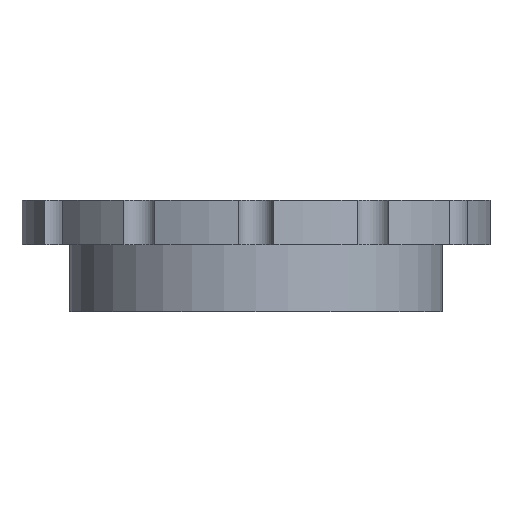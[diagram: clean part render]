
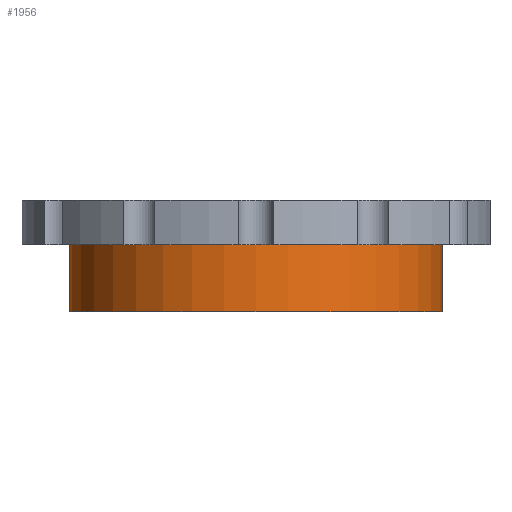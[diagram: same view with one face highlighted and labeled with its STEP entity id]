
A CAD part, front view. The second image highlights one B-rep face of the part: STEP entity #1956.
In plain terms, the highlighted cylindrical face has radius 16.7 mm (diameter 33.4 mm), a full revolution.
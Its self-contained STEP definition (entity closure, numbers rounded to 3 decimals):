
#100 = PLANE('',#101);
#101 = AXIS2_PLACEMENT_3D('',#102,#103,#104);
#102 = CARTESIAN_POINT('',(297.5,0.,108.));
#103 = DIRECTION('',(0.,0.,1.));
#104 = DIRECTION('',(1.,0.,0.));
#1396 = EDGE_CURVE('',#1397,#1397,#1399,.T.);
#1397 = VERTEX_POINT('',#1398);
#1398 = CARTESIAN_POINT('',(314.2,0.,108.));
#1399 = SURFACE_CURVE('',#1400,(#1405,#1412),.PCURVE_S1.);
#1400 = CIRCLE('',#1401,16.7);
#1401 = AXIS2_PLACEMENT_3D('',#1402,#1403,#1404);
#1402 = CARTESIAN_POINT('',(297.5,0.,108.));
#1403 = DIRECTION('',(0.,0.,1.));
#1404 = DIRECTION('',(1.,0.,0.));
#1405 = PCURVE('',#100,#1406);
#1406 = DEFINITIONAL_REPRESENTATION('',(#1407),#1411);
#1407 = CIRCLE('',#1408,16.7);
#1408 = AXIS2_PLACEMENT_2D('',#1409,#1410);
#1409 = CARTESIAN_POINT('',(0.,0.));
#1410 = DIRECTION('',(1.,0.));
#1411 = ( GEOMETRIC_REPRESENTATION_CONTEXT(2) 
PARAMETRIC_REPRESENTATION_CONTEXT() REPRESENTATION_CONTEXT('2D SPACE',''
  ) );
#1412 = PCURVE('',#1413,#1418);
#1413 = CYLINDRICAL_SURFACE('',#1414,16.7);
#1414 = AXIS2_PLACEMENT_3D('',#1415,#1416,#1417);
#1415 = CARTESIAN_POINT('',(297.5,0.,102.));
#1416 = DIRECTION('',(0.,0.,1.));
#1417 = DIRECTION('',(1.,0.,0.));
#1418 = DEFINITIONAL_REPRESENTATION('',(#1419),#1423);
#1419 = LINE('',#1420,#1421);
#1420 = CARTESIAN_POINT('',(0.,6.));
#1421 = VECTOR('',#1422,1.);
#1422 = DIRECTION('',(1.,0.));
#1423 = ( GEOMETRIC_REPRESENTATION_CONTEXT(2) 
PARAMETRIC_REPRESENTATION_CONTEXT() REPRESENTATION_CONTEXT('2D SPACE',''
  ) );
#1956 = ADVANCED_FACE('',(#1957),#1413,.T.);
#1957 = FACE_BOUND('',#1958,.T.);
#1958 = EDGE_LOOP('',(#1959,#1960,#1983,#2010));
#1959 = ORIENTED_EDGE('',*,*,#1396,.F.);
#1960 = ORIENTED_EDGE('',*,*,#1961,.F.);
#1961 = EDGE_CURVE('',#1962,#1397,#1964,.T.);
#1962 = VERTEX_POINT('',#1963);
#1963 = CARTESIAN_POINT('',(314.2,0.,102.));
#1964 = SEAM_CURVE('',#1965,(#1969,#1976),.PCURVE_S1.);
#1965 = LINE('',#1966,#1967);
#1966 = CARTESIAN_POINT('',(314.2,0.,102.));
#1967 = VECTOR('',#1968,1.);
#1968 = DIRECTION('',(0.,0.,1.));
#1969 = PCURVE('',#1413,#1970);
#1970 = DEFINITIONAL_REPRESENTATION('',(#1971),#1975);
#1971 = LINE('',#1972,#1973);
#1972 = CARTESIAN_POINT('',(6.283,-0.));
#1973 = VECTOR('',#1974,1.);
#1974 = DIRECTION('',(0.,1.));
#1975 = ( GEOMETRIC_REPRESENTATION_CONTEXT(2) 
PARAMETRIC_REPRESENTATION_CONTEXT() REPRESENTATION_CONTEXT('2D SPACE',''
  ) );
#1976 = PCURVE('',#1413,#1977);
#1977 = DEFINITIONAL_REPRESENTATION('',(#1978),#1982);
#1978 = LINE('',#1979,#1980);
#1979 = CARTESIAN_POINT('',(0.,-0.));
#1980 = VECTOR('',#1981,1.);
#1981 = DIRECTION('',(0.,1.));
#1982 = ( GEOMETRIC_REPRESENTATION_CONTEXT(2) 
PARAMETRIC_REPRESENTATION_CONTEXT() REPRESENTATION_CONTEXT('2D SPACE',''
  ) );
#1983 = ORIENTED_EDGE('',*,*,#1984,.T.);
#1984 = EDGE_CURVE('',#1962,#1962,#1985,.T.);
#1985 = SURFACE_CURVE('',#1986,(#1991,#1998),.PCURVE_S1.);
#1986 = CIRCLE('',#1987,16.7);
#1987 = AXIS2_PLACEMENT_3D('',#1988,#1989,#1990);
#1988 = CARTESIAN_POINT('',(297.5,0.,102.));
#1989 = DIRECTION('',(0.,0.,1.));
#1990 = DIRECTION('',(1.,0.,0.));
#1991 = PCURVE('',#1413,#1992);
#1992 = DEFINITIONAL_REPRESENTATION('',(#1993),#1997);
#1993 = LINE('',#1994,#1995);
#1994 = CARTESIAN_POINT('',(0.,0.));
#1995 = VECTOR('',#1996,1.);
#1996 = DIRECTION('',(1.,0.));
#1997 = ( GEOMETRIC_REPRESENTATION_CONTEXT(2) 
PARAMETRIC_REPRESENTATION_CONTEXT() REPRESENTATION_CONTEXT('2D SPACE',''
  ) );
#1998 = PCURVE('',#1999,#2004);
#1999 = PLANE('',#2000);
#2000 = AXIS2_PLACEMENT_3D('',#2001,#2002,#2003);
#2001 = CARTESIAN_POINT('',(297.5,0.,102.));
#2002 = DIRECTION('',(0.,0.,1.));
#2003 = DIRECTION('',(1.,0.,0.));
#2004 = DEFINITIONAL_REPRESENTATION('',(#2005),#2009);
#2005 = CIRCLE('',#2006,16.7);
#2006 = AXIS2_PLACEMENT_2D('',#2007,#2008);
#2007 = CARTESIAN_POINT('',(0.,0.));
#2008 = DIRECTION('',(1.,0.));
#2009 = ( GEOMETRIC_REPRESENTATION_CONTEXT(2) 
PARAMETRIC_REPRESENTATION_CONTEXT() REPRESENTATION_CONTEXT('2D SPACE',''
  ) );
#2010 = ORIENTED_EDGE('',*,*,#1961,.T.);
